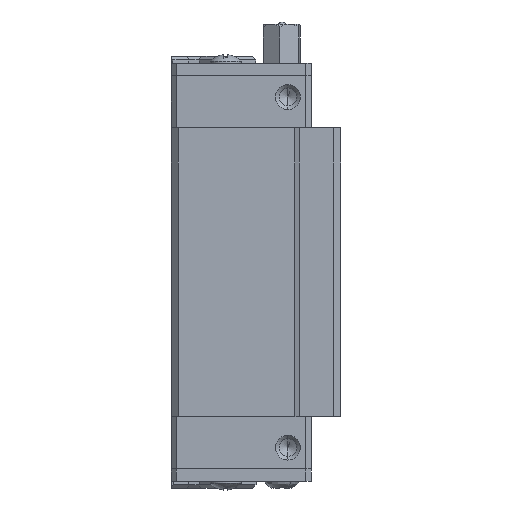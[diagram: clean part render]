
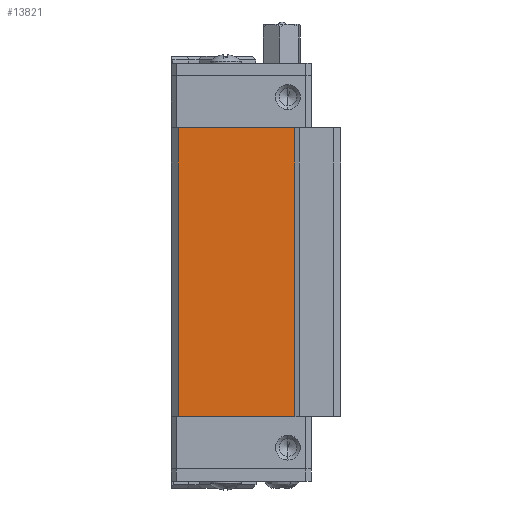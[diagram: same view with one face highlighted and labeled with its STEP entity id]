
A CAD part, left-side view. The second image highlights one B-rep face of the part: STEP entity #13821.
In plain terms, the highlighted planar face has unit normal (-1, 0, 0).
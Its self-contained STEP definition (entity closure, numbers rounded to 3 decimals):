
#320 = CARTESIAN_POINT ( 'NONE',  ( -16.8, -5.5, 20.4 ) ) ;
#699 = CARTESIAN_POINT ( 'NONE',  ( -16.8, -5.5, 20.4 ) ) ;
#825 = EDGE_LOOP ( 'NONE', ( #9793, #2302, #5783, #11395 ) ) ;
#1066 = DIRECTION ( 'NONE',  ( 1., 0., 0. ) ) ;
#1635 = PLANE ( 'NONE',  #3022 ) ;
#1799 = EDGE_CURVE ( 'NONE', #4759, #3139, #12807, .T. ) ;
#2179 = CARTESIAN_POINT ( 'NONE',  ( -16.8, -5.5, -20.4 ) ) ;
#2302 = ORIENTED_EDGE ( 'NONE', *, *, #1799, .T. ) ;
#3022 = AXIS2_PLACEMENT_3D ( 'NONE', #2179, #1066, #3306 ) ;
#3139 = VERTEX_POINT ( 'NONE', #12092 ) ;
#3221 = VECTOR ( 'NONE', #6444, 1000. ) ;
#3306 = DIRECTION ( 'NONE',  ( 0., 1., 0. ) ) ;
#3504 = VECTOR ( 'NONE', #5983, 1000. ) ;
#4291 = FACE_OUTER_BOUND ( 'NONE', #825, .T. ) ;
#4759 = VERTEX_POINT ( 'NONE', #14022 ) ;
#5783 = ORIENTED_EDGE ( 'NONE', *, *, #13804, .F. ) ;
#5798 = VERTEX_POINT ( 'NONE', #699 ) ;
#5983 = DIRECTION ( 'NONE',  ( 0., 0., 1. ) ) ;
#6389 = CARTESIAN_POINT ( 'NONE',  ( -16.8, -5.5, -20.4 ) ) ;
#6444 = DIRECTION ( 'NONE',  ( 0., 1., 0. ) ) ;
#6825 = DIRECTION ( 'NONE',  ( 0., 1., 0. ) ) ;
#7287 = VECTOR ( 'NONE', #6825, 1000. ) ;
#8362 = VERTEX_POINT ( 'NONE', #6389 ) ;
#8834 = CARTESIAN_POINT ( 'NONE',  ( -16.8, -5.5, -20.4 ) ) ;
#9793 = ORIENTED_EDGE ( 'NONE', *, *, #13828, .T. ) ;
#10508 = DIRECTION ( 'NONE',  ( 0., 0., -1. ) ) ;
#10724 = LINE ( 'NONE', #8834, #7287 ) ;
#11199 = VECTOR ( 'NONE', #10508, 1000. ) ;
#11395 = ORIENTED_EDGE ( 'NONE', *, *, #12011, .T. ) ;
#11709 = CARTESIAN_POINT ( 'NONE',  ( -16.8, 11., -20.4 ) ) ;
#11778 = CARTESIAN_POINT ( 'NONE',  ( -16.8, -5.5, -20.4 ) ) ;
#12011 = EDGE_CURVE ( 'NONE', #8362, #5798, #12665, .T. ) ;
#12015 = LINE ( 'NONE', #320, #3221 ) ;
#12092 = CARTESIAN_POINT ( 'NONE',  ( -16.8, 11., -20.4 ) ) ;
#12665 = LINE ( 'NONE', #11778, #3504 ) ;
#12807 = LINE ( 'NONE', #11709, #11199 ) ;
#13804 = EDGE_CURVE ( 'NONE', #8362, #3139, #10724, .T. ) ;
#13821 = ADVANCED_FACE ( 'NONE', ( #4291 ), #1635, .F. ) ;
#13828 = EDGE_CURVE ( 'NONE', #5798, #4759, #12015, .T. ) ;
#14022 = CARTESIAN_POINT ( 'NONE',  ( -16.8, 11., 20.4 ) ) ;
